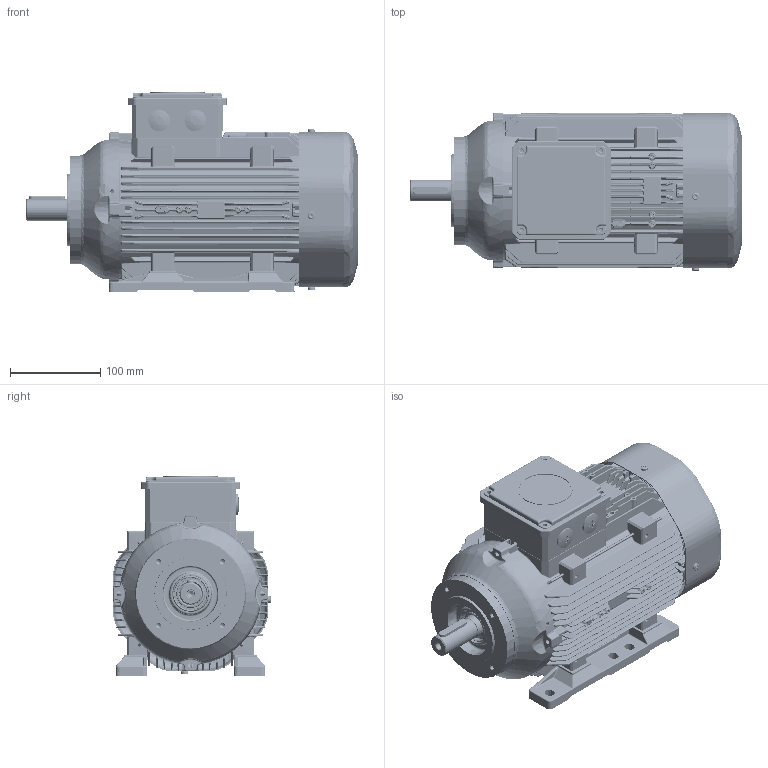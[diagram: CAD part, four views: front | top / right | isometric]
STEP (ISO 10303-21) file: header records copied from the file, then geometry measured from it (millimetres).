
FILE_DESCRIPTION(/* description */ (''),/* implementation_level */ '2;1');
FILE_NAME(/* name */ 'OUTLOOK VIEW QH90 PC B34 - REDUCED FT100 SPL.stp',/* time_stamp */ '2021-09-21T14:08:49+03:00',/* author */ (''),/* organization */ (''),/* preprocessor_version */ 'ST-DEVELOPER v16',/* originating_system */ 'SIEMENS PLM Software NX 11.0',/* authorisation */ '');
FILE_SCHEMA (('AUTOMOTIVE_DESIGN { 1 0 10303 214 3 1 1 1 }'));
Products named in the file (1): 260652D491E0rwc1
Bounding box: 367.71 x 175.21 x 221.3 mm (x, y, z)
Volume: 1725522.8 mm3; surface area: 1010399.2 mm2
Topology: 41 solids, 50 shells, 11215 faces, 26820 edges, 15348 vertices
Faces by surface type: cylinder 3681, bspline 3662, plane 2392, torus 528, sphere 474, cone 408, extrusion 70
Full cylindrical faces by diameter (mm): 2.5 x2, 3.242 x3, 3.4 x48, 4 x4, 4.2 x1, 4.6 x12, 4.722 x3, 5 x35, 5.5 x4, 6.8 x1, 8 x3, 8.4 x1, 9.874 x1, 14 x2, 19.4 x1, 20 x1, 21 x1, 23.38 x2, 23.4 x1, 23.9 x1, 24 x3, 24.4 x2, 25 x5, 25.5 x2, 27.5 x1, 27.94 x1, 29 x2, 30 x1, 34.35 x4, 36.6 x4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
Entity records: 401022 total; most frequent: CARTESIAN_POINT 163416, ORIENTED_EDGE 51062, DIRECTION 45616, EDGE_CURVE 25531, AXIS2_PLACEMENT_3D 18444, VERTEX_POINT 15099, EDGE_LOOP 12154, ADVANCED_FACE 11173
